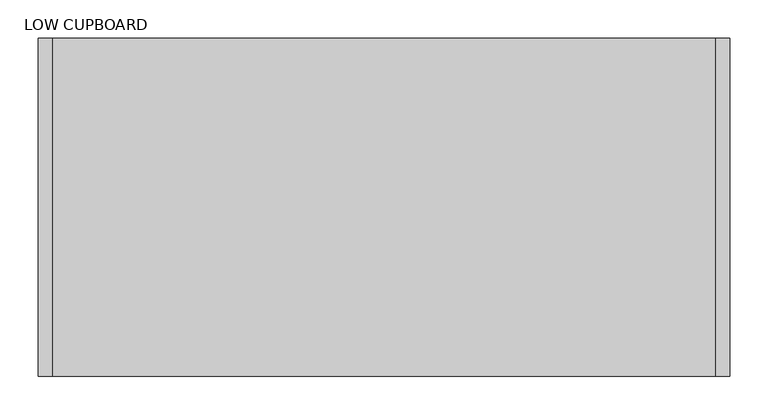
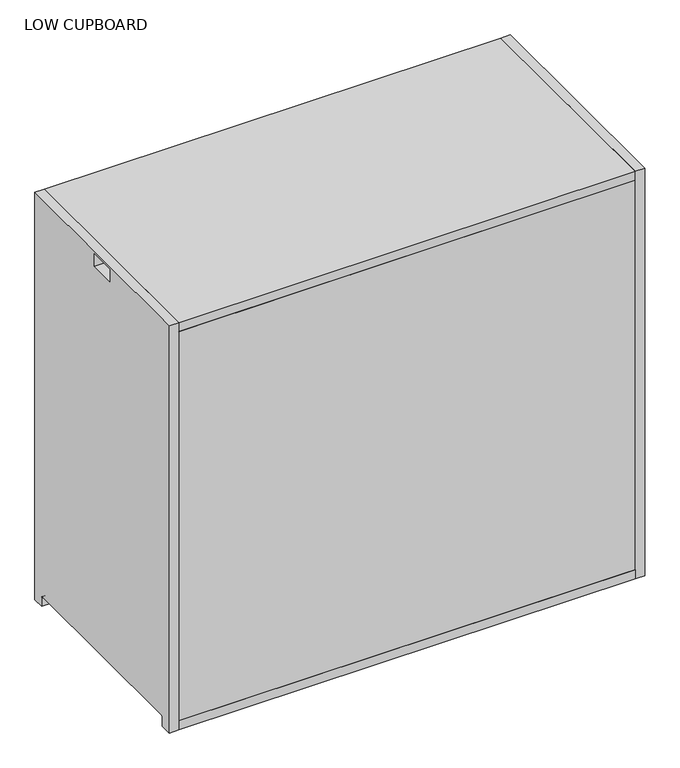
"""IFC4 building model written with IfcOpenShell, lengths in millimetres: furniture geometry, LOW CUPBOARD : 900mmW_SHELVES & DIVIDER."""

from ifc_helpers import new_model, si_unit, point, frame, frame_2d, origin, place, context, project, spatial, polyline, circle_curve, trimmed, segment, composite_curve, outline, extrude, source, transform, mapped, element, save
from ifc_brep_helpers import plane_surface, revolved_surface, advanced_brep


def low_cupboard_3e23ef2c(model_context):
    return source(origin(), model_context, "Body", "SolidModel", [
        extrude(outline(composite_curve([segment(polyline([(220.0, 815.0), (220.0, 0.0), (198.0, 0.0), (198.0, 17.0)]), True, "CONTINUOUS"), segment(trimmed(circle_curve(frame_2d((194.0, 17.0)), 4.0), [point((198.0, 17.0))], [point((194.0, 21.0))], True, "CARTESIAN"), True, "CONTINUOUS"), segment(polyline([(194.0, 21.0), (-194.0, 21.0)]), True, "CONTINUOUS"), segment(trimmed(circle_curve(frame_2d((-194.0, 17.0)), 4.0), [point((-194.0, 21.0))], [point((-198.0, 17.0))], True, "CARTESIAN"), True, "CONTINUOUS"), segment(polyline([(-198.0, 17.0), (-198.0, 0.0), (-220.0, 0.0), (-220.0, 815.0), (220.0, 815.0)]), True, "CONTINUOUS")], self_intersect=False), holes=[polyline([(26.0, 810.0), (-26.0, 810.0), (-26.0, 785.0), (26.0, 785.0), (26.0, 810.0)])]), frame((-450.0, 0.0, 0.0), z_axis=(1.0, 0.0, 0.0), x_axis=(0.0, 1.0, 0.0)), (0.0, 0.0, 1.0), 18.0),
        advanced_brep(
        [(432.0, -220.0, 18.0), (432.0, 220.0, 18.0), (-432.0, 220.0, 18.0), (-432.0, 197.8729833, 18.0), (-426.1019215, 197.8729833, 18.0), (-426.1019215, -197.8729833, 18.0), (-432.0, -197.8729833, 18.0), (-432.0, -220.0, 18.0), (432.0, -220.0, 0.0), (-432.0, -220.0, 0.0), (-432.0, -198.0, 0.0), (-426.1019215, -198.0, 0.0), (-426.1019215, 198.0, 0.0), (-432.0, 198.0, 0.0), (-432.0, 220.0, 0.0), (432.0, 220.0, 0.0), (-432.0, -198.0, 17.0), (-432.0, 198.0, 17.0), (-426.1019215, -198.0, 17.0), (-426.1019215, 198.0, 17.0)],
        [
            (0, 1),
            (1, 2),
            (2, 3),
            (3, 4),
            (4, 5),
            (5, 6),
            (6, 7),
            (7, 0),
            (8, 9),
            (9, 10),
            (10, 11),
            (11, 12),
            (12, 13),
            (13, 14),
            (14, 15),
            (15, 8),
            (7, 9),
            (8, 0),
            (6, 16, circle_curve(frame((-432.0, -194.0, 17.0), z_axis=(1.0, 0.0, 0.0), x_axis=(0.0, -1.0, 0.0)), 4.0)),
            (16, 10),
            (13, 17),
            (17, 3, circle_curve(frame((-432.0, 194.0, 17.0), z_axis=(1.0, 0.0, 0.0), x_axis=(0.0, -1.0, 0.0)), 4.0)),
            (2, 14),
            (1, 15),
            (18, 5, circle_curve(frame((-426.1019215, -194.0, 17.0), z_axis=(-1.0, 0.0, 0.0), x_axis=(0.0, -1.0, 0.0)), 4.0)),
            (4, 19, circle_curve(frame((-426.1019215, 194.0, 17.0), z_axis=(-1.0, 0.0, 0.0), x_axis=(0.0, -1.0, 0.0)), 4.0)),
            (19, 12),
            (11, 18),
            (17, 19),
            (16, 18),
        ],
        [
            plane_surface(frame((-432.0, -220.0, 18.0), z_axis=(0.0, 0.0, 1.0), x_axis=(-1.0, 0.0, 0.0))),
            plane_surface(frame((-432.0, -220.0, 0.0), z_axis=(0.0, 0.0, -1.0), x_axis=(1.0, 0.0, 0.0))),
            plane_surface(frame((432.0, -220.0, 18.0), z_axis=(0.0, -1.0, 0.0), x_axis=(0.0, 0.0, -1.0))),
            plane_surface(frame((-432.0, -220.0, 18.0), z_axis=(-1.0, 0.0, 0.0), x_axis=(0.0, 0.0, -1.0))),
            plane_surface(frame((-432.0, 220.0, 18.0), z_axis=(0.0, 1.0, 0.0), x_axis=(0.0, 0.0, -1.0))),
            plane_surface(frame((432.0, 220.0, 18.0), z_axis=(1.0, 0.0, 0.0), x_axis=(0.0, 0.0, -1.0))),
            plane_surface(frame((-426.1019215, 190.0, 17.0), z_axis=(-1.0, 0.0, 0.0), x_axis=(0.0, 0.0, 1.0))),
            revolved_surface(polyline([(-426.1019215, 190.0, 17.0), (-432.0, 190.0, 17.0)]), (-456.0458228, 194.0, 17.0), (1.0, 0.0, 0.0)),
            plane_surface(frame((-426.1019215, 198.0, 17.0), z_axis=(0.0, -1.0, 0.0), x_axis=(-1.0, 0.0, 0.0))),
            plane_surface(frame((-426.1019215, -198.0, 0.0), z_axis=(0.0, 1.0, 0.0), x_axis=(-1.0, 0.0, 0.0))),
            revolved_surface(polyline([(-426.1019215, -198.0, 17.0), (-432.0, -198.0, 17.0)]), (-456.0458228, -194.0, 17.0), (1.0, 0.0, 0.0)),
        ],
        [
            (0, [[1, 2, 3, 4, 5, 6, 7, 8]]),
            (1, [[9, 10, 11, 12, 13, 14, 15, 16]]),
            (2, [[17, -9, 18, -8]]),
            (3, [[-7, 19, 20, -10, -17]]),
            (3, [[-14, 21, 22, -3, 23]]),
            (4, [[24, -15, -23, -2]]),
            (5, [[-18, -16, -24, -1]]),
            (6, [[25, -5, 26, 27, -12, 28]]),
            (7, [[-4, -22, 29, -26]]),
            (8, [[-29, -21, -13, -27]]),
            (9, [[-11, -20, 30, -28]]),
            (10, [[-30, -19, -6, -25]]),
        ],
    ),
        extrude(outline(composite_curve([segment(polyline([(220.0, 815.0), (220.0, 0.0), (198.0, 0.0), (198.0, 17.0)]), True, "CONTINUOUS"), segment(trimmed(circle_curve(frame_2d((194.0, 17.0)), 4.0), [point((198.0, 17.0))], [point((194.0, 21.0))], True, "CARTESIAN"), True, "CONTINUOUS"), segment(polyline([(194.0, 21.0), (-194.0, 21.0)]), True, "CONTINUOUS"), segment(trimmed(circle_curve(frame_2d((-194.0, 17.0)), 4.0), [point((-194.0, 21.0))], [point((-198.0, 17.0))], True, "CARTESIAN"), True, "CONTINUOUS"), segment(polyline([(-198.0, 17.0), (-198.0, 0.0), (-220.0, 0.0), (-220.0, 815.0), (220.0, 815.0)]), True, "CONTINUOUS")], self_intersect=False), holes=[polyline([(26.0, 810.0), (-26.0, 810.0), (-26.0, 785.0), (26.0, 785.0), (26.0, 810.0)])]), frame((432.0, 0.0, 0.0), z_axis=(1.0, 0.0, 0.0), x_axis=(0.0, 1.0, 0.0)), (0.0, 0.0, 1.0), 18.0),
        extrude(outline(polyline([(432.0, -220.0), (-432.0, -220.0), (-432.0, -202.0), (432.0, -202.0), (432.0, -220.0)])), frame((0.0, 0.0, 18.0), z_axis=(0.0, 0.0, 1.0), x_axis=(1.0, 0.0, 0.0)), (0.0, 0.0, 1.0), 779.0),
        extrude(outline(polyline([(432.0, -202.0), (-432.0, -202.0), (-432.0, 220.0), (432.0, 220.0), (432.0, -202.0)])), frame((0.0, 0.0, 398.5), z_axis=(0.0, 0.0, 1.0), x_axis=(1.0, 0.0, 0.0)), (0.0, 0.0, 1.0), 18.0),
        extrude(outline(polyline([(432.0, -220.0), (-432.0, -220.0), (-432.0, 220.0), (432.0, 220.0), (432.0, -220.0)])), frame((0.0, 0.0, 797.0), z_axis=(0.0, 0.0, 1.0), x_axis=(1.0, 0.0, 0.0)), (0.0, 0.0, 1.0), 18.0),
        extrude(outline(polyline([(9.0, -202.0), (-9.0, -202.0), (-9.0, 220.0), (9.0, 220.0), (9.0, -202.0)])), frame((0.0, 0.0, 18.0), z_axis=(0.0, 0.0, 1.0), x_axis=(1.0, 0.0, 0.0)), (0.0, 0.0, 1.0), 779.0),
    ])


if __name__ == "__main__":
    model = new_model("IFC4")
    model_context = context("Model", 3, world=origin())
    ifc_project = project(units=[si_unit("LENGTHUNIT", "METRE", prefix="MILLI")], contexts=[model_context])
    site = spatial("IfcSite", under=ifc_project)
    building = spatial("IfcBuilding", under=site)
    placement = place(None, origin())
    low_cupboard_shape = low_cupboard_3e23ef2c(model_context)
    element("IfcFurniture", 1, ObjectType="LOW CUPBOARD : 900mmW_SHELVES & DIVIDER", at=placement, inside=building, context=model_context, shape_type="MappedRepresentation", body=[
        mapped(low_cupboard_shape, transform((0.0, 0.0, 0.0), x_axis=(1.0, 0.0, 0.0), y_axis=(0.0, 1.0, 0.0), z_axis=(0.0, 0.0, 1.0))),
    ])
    save(model, "model.ifc")
